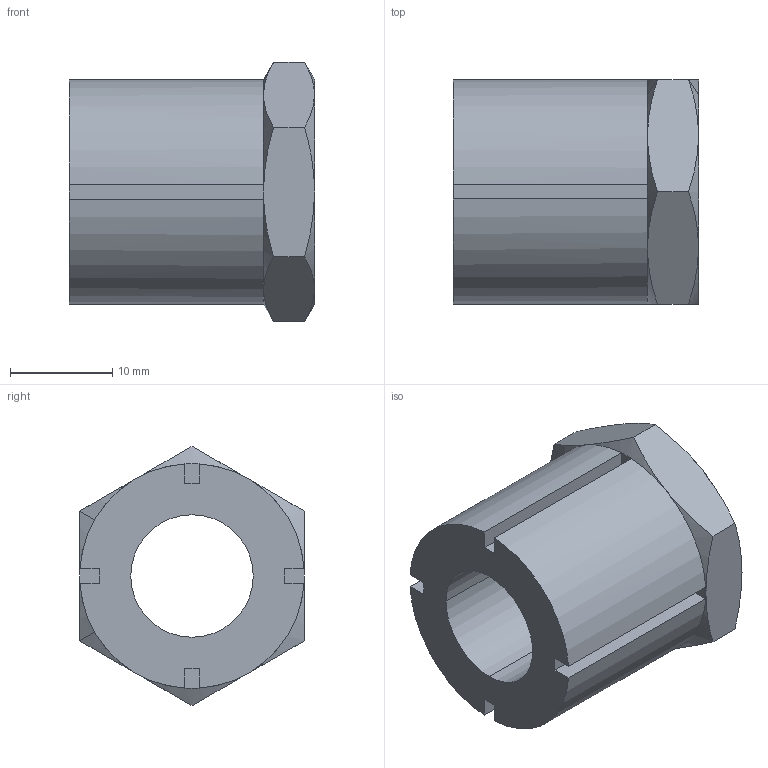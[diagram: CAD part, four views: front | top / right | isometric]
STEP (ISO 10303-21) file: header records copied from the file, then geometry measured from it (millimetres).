
FILE_DESCRIPTION((''),'2;1');
FILE_NAME('C:\WIXROYD\Positioning\3840\3840W012.stp','2003-01-09T15:38:49',('Administrator'),(''),'Autodesk Inventor (tm) 5.0','Autodesk Inventor (tm) 5.0','');
FILE_SCHEMA(('CONFIG_CONTROL_DESIGN'));
Length unit declared in the file: millimetre
Products named in the file (1): 3840W012
Bounding box: 24 x 22 x 25.4 mm (x, y, z)
Volume: 6379.5 mm3; surface area: 3457.2 mm2
Topology: 1 solids, 1 shells, 48 faces, 114 edges, 68 vertices
Faces by surface type: plane 24, cone 16, cylinder 8
Entity records: 1437 total; most frequent: CARTESIAN_POINT 279, ORIENTED_EDGE 228, DIRECTION 224, EDGE_CURVE 114, AXIS2_PLACEMENT_3D 85, VERTEX_POINT 68, VECTOR 54, LINE 54
